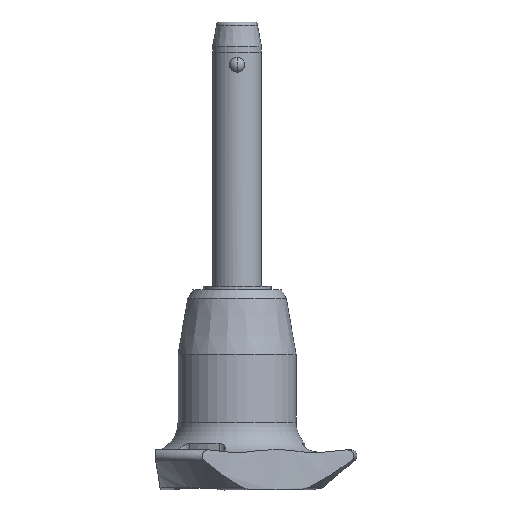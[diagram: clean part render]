
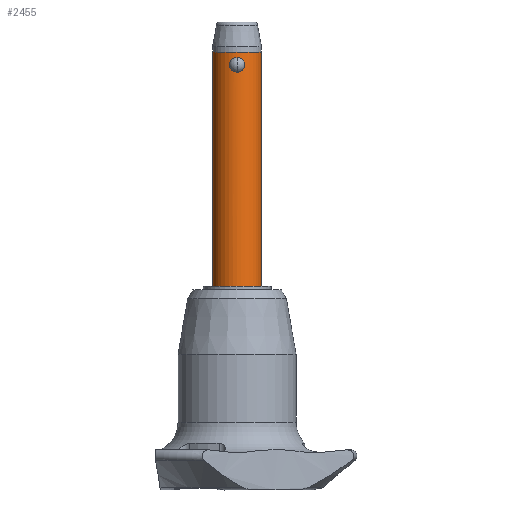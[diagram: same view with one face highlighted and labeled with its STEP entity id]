
A CAD part, front view. The second image highlights one B-rep face of the part: STEP entity #2455.
In plain terms, the highlighted cylindrical face has radius 4 mm (diameter 8 mm), a partial arc.
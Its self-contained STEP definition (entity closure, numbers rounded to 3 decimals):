
#14 = VERTEX_POINT ( 'NONE', #1066 ) ;
#27 = DIRECTION ( 'NONE',  ( 1., 0., 0. ) ) ;
#55 = CARTESIAN_POINT ( 'NONE',  ( 1.101, -3.846, 1.82 ) ) ;
#62 = CARTESIAN_POINT ( 'NONE',  ( -0.164, -4., 2.4 ) ) ;
#68 = CARTESIAN_POINT ( 'NONE',  ( 0.627, -3.953, 0.143 ) ) ;
#74 = CARTESIAN_POINT ( 'NONE',  ( -1.266, -3.794, 1.364 ) ) ;
#81 = CARTESIAN_POINT ( 'NONE',  ( 1.266, -3.794, 1.281 ) ) ;
#93 = CARTESIAN_POINT ( 'NONE',  ( 0.162, -4., 0. ) ) ;
#166 = CARTESIAN_POINT ( 'NONE',  ( 0., 0., -35. ) ) ;
#174 = AXIS2_PLACEMENT_3D ( 'NONE', #166, #614, #2567 ) ;
#254 = FACE_OUTER_BOUND ( 'NONE', #654, .T. ) ;
#276 = CARTESIAN_POINT ( 'NONE',  ( -1.133, -3.836, 1.747 ) ) ;
#283 = LINE ( 'NONE', #1378, #1775 ) ;
#290 = CARTESIAN_POINT ( 'NONE',  ( -0.945, -3.887, 2.008 ) ) ;
#309 = CARTESIAN_POINT ( 'NONE',  ( 0.944, -3.887, 0.391 ) ) ;
#326 = CARTESIAN_POINT ( 'NONE',  ( 0.164, -4., 2.4 ) ) ;
#363 = AXIS2_PLACEMENT_3D ( 'NONE', #1983, #2197, #27 ) ;
#480 = CARTESIAN_POINT ( 'NONE',  ( -1.266, -3.794, 1.12 ) ) ;
#486 = CARTESIAN_POINT ( 'NONE',  ( 1.092, -3.848, 0.582 ) ) ;
#501 = CARTESIAN_POINT ( 'NONE',  ( 1.005, -3.874, 1.953 ) ) ;
#526 = CARTESIAN_POINT ( 'NONE',  ( 1.258, -3.797, 1.361 ) ) ;
#534 = CARTESIAN_POINT ( 'NONE',  ( -0.325, -3.99, 2.371 ) ) ;
#553 = CARTESIAN_POINT ( 'NONE',  ( -4., 0., -35. ) ) ;
#608 = B_SPLINE_CURVE_WITH_KNOTS ( 'NONE', 3,
 ( #2264, #93, #1171, #68, #2009, #309, #2666, #486, #1593, #1422, #966, #81, #526, #2680, #955, #55, #501, #2466, #2279, #2724, #326, #981 ),
 .UNSPECIFIED., .F., .F.,
 ( 4, 2, 2, 2, 2, 2, 2, 2, 2, 2, 4 ),
 ( 0.004, 0.004, 0.005, 0.005, 0.005, 0.006, 0.006, 0.006, 0.007, 0.007, 0.008 ),
 .UNSPECIFIED. ) ;
#614 = DIRECTION ( 'NONE',  ( 0., 0., -1. ) ) ;
#630 = AXIS2_PLACEMENT_3D ( 'NONE', #1737, #1476, #2574 ) ;
#633 = CARTESIAN_POINT ( 'NONE',  ( 0., -4., 0. ) ) ;
#654 = EDGE_LOOP ( 'NONE', ( #2643, #1394, #2165, #791 ) ) ;
#691 = CARTESIAN_POINT ( 'NONE',  ( -0.827, -3.914, 2.117 ) ) ;
#706 = CARTESIAN_POINT ( 'NONE',  ( -1.199, -3.816, 0.802 ) ) ;
#742 = VERTEX_POINT ( 'NONE', #633 ) ;
#791 = ORIENTED_EDGE ( 'NONE', *, *, #2359, .F. ) ;
#844 = CARTESIAN_POINT ( 'NONE',  ( -4., 0., -35. ) ) ;
#903 = CARTESIAN_POINT ( 'NONE',  ( -1.231, -3.806, 1.527 ) ) ;
#945 = EDGE_CURVE ( 'NONE', #14, #742, #1346, .T. ) ;
#947 = CARTESIAN_POINT ( 'NONE',  ( -1.224, -3.808, 0.879 ) ) ;
#955 = CARTESIAN_POINT ( 'NONE',  ( 1.199, -3.816, 1.599 ) ) ;
#960 = CARTESIAN_POINT ( 'NONE',  ( -0.762, -3.927, 2.166 ) ) ;
#966 = CARTESIAN_POINT ( 'NONE',  ( 1.266, -3.794, 1.035 ) ) ;
#972 = VERTEX_POINT ( 'NONE', #1863 ) ;
#981 = CARTESIAN_POINT ( 'NONE',  ( 0., -4., 2.4 ) ) ;
#1066 = CARTESIAN_POINT ( 'NONE',  ( 0., -4., 2.4 ) ) ;
#1136 = CARTESIAN_POINT ( 'NONE',  ( 0., -4., 2.4 ) ) ;
#1171 = CARTESIAN_POINT ( 'NONE',  ( 0.326, -3.99, 0.029 ) ) ;
#1179 = CARTESIAN_POINT ( 'NONE',  ( -0.768, -3.927, 0.228 ) ) ;
#1198 = DIRECTION ( 'NONE',  ( 0., 0., 1. ) ) ;
#1237 = DIRECTION ( 'NONE',  ( 0., 0., 1. ) ) ;
#1243 = VERTEX_POINT ( 'NONE', #2062 ) ;
#1319 = ORIENTED_EDGE ( 'NONE', *, *, #945, .F. ) ;
#1346 = B_SPLINE_CURVE_WITH_KNOTS ( 'NONE', 3,
 ( #1136, #62, #534, #2215, #2246, #960, #691, #290, #2028, #2659, #276, #903, #74, #480, #1823, #947, #706, #2701, #1399, #1179, #2428, #2482, #1587, #2044 ),
 .UNSPECIFIED., .F., .F.,
 ( 4, 2, 2, 2, 2, 2, 2, 2, 2, 2, 2, 4 ),
 ( 0., 0., 0.001, 0.001, 0.001, 0.001, 0.002, 0.002, 0.002, 0.003, 0.003, 0.004 ),
 .UNSPECIFIED. ) ;
#1378 = CARTESIAN_POINT ( 'NONE',  ( 4., 0., -35. ) ) ;
#1394 = ORIENTED_EDGE ( 'NONE', *, *, #1910, .F. ) ;
#1399 = CARTESIAN_POINT ( 'NONE',  ( -1.005, -3.874, 0.447 ) ) ;
#1422 = CARTESIAN_POINT ( 'NONE',  ( 1.231, -3.806, 0.873 ) ) ;
#1476 = DIRECTION ( 'NONE',  ( 0., 0., 1. ) ) ;
#1562 = VERTEX_POINT ( 'NONE', #2112 ) ;
#1587 = CARTESIAN_POINT ( 'NONE',  ( -0.162, -4., 0. ) ) ;
#1593 = CARTESIAN_POINT ( 'NONE',  ( 1.132, -3.836, 0.651 ) ) ;
#1697 = ORIENTED_EDGE ( 'NONE', *, *, #1839, .F. ) ;
#1737 = CARTESIAN_POINT ( 'NONE',  ( 0., 0., 3.28 ) ) ;
#1775 = VECTOR ( 'NONE', #1198, 1000. ) ;
#1806 = FACE_BOUND ( 'NONE', #2581, .T. ) ;
#1809 = EDGE_CURVE ( 'NONE', #972, #1243, #283, .T. ) ;
#1823 = CARTESIAN_POINT ( 'NONE',  ( -1.258, -3.797, 1.038 ) ) ;
#1839 = EDGE_CURVE ( 'NONE', #742, #14, #608, .T. ) ;
#1863 = CARTESIAN_POINT ( 'NONE',  ( 4., 0., -35. ) ) ;
#1910 = EDGE_CURVE ( 'NONE', #972, #2670, #2269, .T. ) ;
#1953 = VECTOR ( 'NONE', #1237, 1000. ) ;
#1958 = CYLINDRICAL_SURFACE ( 'NONE', #363, 4. ) ;
#1983 = CARTESIAN_POINT ( 'NONE',  ( 0., 0., -35. ) ) ;
#2009 = CARTESIAN_POINT ( 'NONE',  ( 0.768, -3.927, 0.228 ) ) ;
#2028 = CARTESIAN_POINT ( 'NONE',  ( -0.998, -3.874, 1.949 ) ) ;
#2044 = CARTESIAN_POINT ( 'NONE',  ( 0., -4., 0. ) ) ;
#2062 = CARTESIAN_POINT ( 'NONE',  ( 4., 0., 3.28 ) ) ;
#2112 = CARTESIAN_POINT ( 'NONE',  ( -4., 0., 3.28 ) ) ;
#2165 = ORIENTED_EDGE ( 'NONE', *, *, #1809, .T. ) ;
#2197 = DIRECTION ( 'NONE',  ( 0., 0., 1. ) ) ;
#2215 = CARTESIAN_POINT ( 'NONE',  ( -0.553, -3.962, 2.285 ) ) ;
#2246 = CARTESIAN_POINT ( 'NONE',  ( -0.625, -3.951, 2.25 ) ) ;
#2264 = CARTESIAN_POINT ( 'NONE',  ( 0., -4., 0. ) ) ;
#2269 = CIRCLE ( 'NONE', #174, 4. ) ;
#2279 = CARTESIAN_POINT ( 'NONE',  ( 0.629, -3.953, 2.256 ) ) ;
#2343 = EDGE_CURVE ( 'NONE', #2670, #1562, #2382, .T. ) ;
#2359 = EDGE_CURVE ( 'NONE', #1562, #1243, #2405, .T. ) ;
#2382 = LINE ( 'NONE', #844, #1953 ) ;
#2405 = CIRCLE ( 'NONE', #630, 4. ) ;
#2428 = CARTESIAN_POINT ( 'NONE',  ( -0.628, -3.953, 0.143 ) ) ;
#2455 = ADVANCED_FACE ( 'NONE', ( #254, #1806 ), #1958, .T. ) ;
#2466 = CARTESIAN_POINT ( 'NONE',  ( 0.769, -3.927, 2.171 ) ) ;
#2482 = CARTESIAN_POINT ( 'NONE',  ( -0.326, -3.99, 0.029 ) ) ;
#2567 = DIRECTION ( 'NONE',  ( 1., 0., 0. ) ) ;
#2574 = DIRECTION ( 'NONE',  ( 1., 0., 0. ) ) ;
#2581 = EDGE_LOOP ( 'NONE', ( #1319, #1697 ) ) ;
#2643 = ORIENTED_EDGE ( 'NONE', *, *, #2343, .F. ) ;
#2659 = CARTESIAN_POINT ( 'NONE',  ( -1.092, -3.848, 1.818 ) ) ;
#2666 = CARTESIAN_POINT ( 'NONE',  ( 0.999, -3.874, 0.452 ) ) ;
#2670 = VERTEX_POINT ( 'NONE', #553 ) ;
#2680 = CARTESIAN_POINT ( 'NONE',  ( 1.224, -3.808, 1.52 ) ) ;
#2701 = CARTESIAN_POINT ( 'NONE',  ( -1.101, -3.846, 0.579 ) ) ;
#2724 = CARTESIAN_POINT ( 'NONE',  ( 0.326, -3.99, 2.371 ) ) ;
